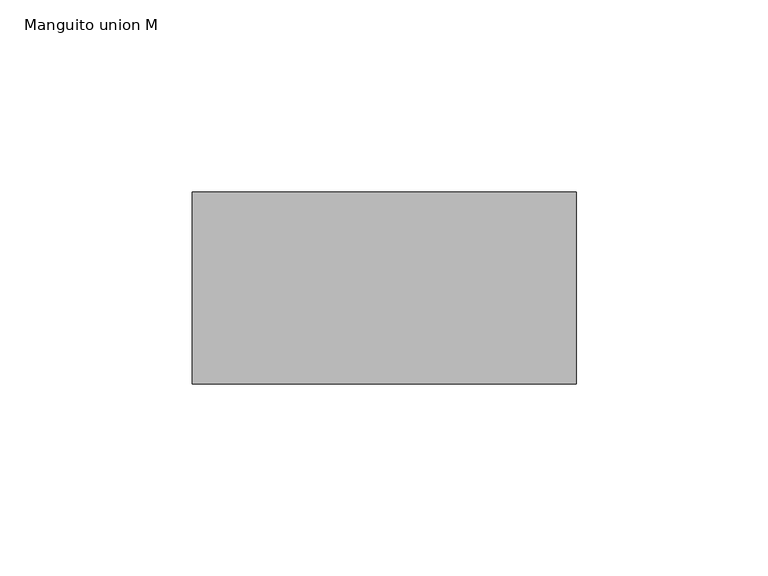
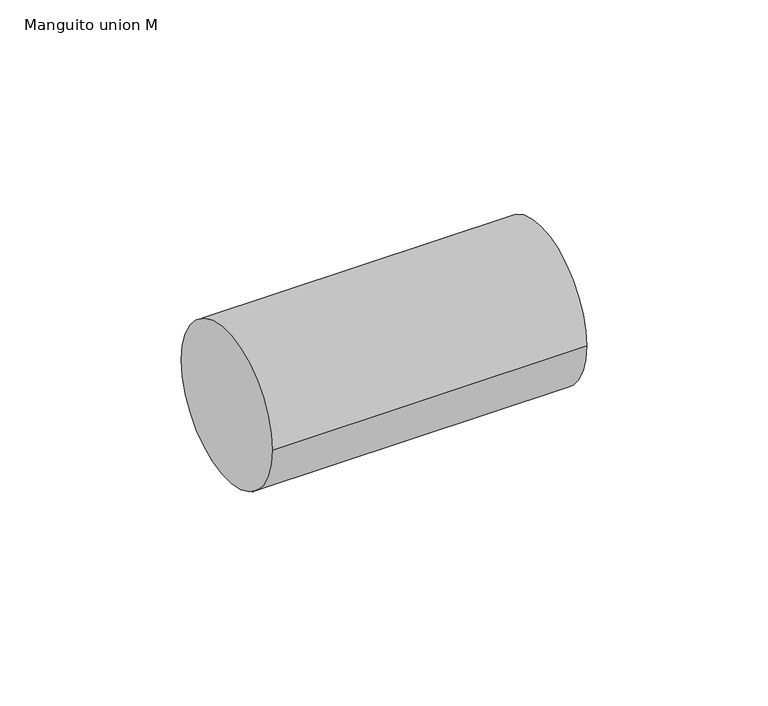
"""IFC4 building model written with IfcOpenShell, lengths in millimetres: pipe fitting geometry, 01051061 : Manguito union M."""

from ifc_helpers import new_model, si_unit, point, frame, origin, origin_2d, place, context, project, spatial, circle_curve, trimmed, segment, composite_curve, outline, extrude, source, transform, mapped, element, save


def manguito_union_m_bf7bb384(model_context):
    return source(origin(), model_context, "Body", "SweptSolid", [
        extrude(outline(composite_curve([segment(trimmed(circle_curve(origin_2d(), 25.0), [point((-25.0, 0.0))], [point((25.0, 0.0))], False, "CARTESIAN"), True, "CONTINUOUS"), segment(trimmed(circle_curve(origin_2d(), 25.0), [point((25.0, 0.0))], [point((-25.0, 0.0))], False, "CARTESIAN"), True, "CONTINUOUS")], self_intersect=False)), frame((-50.0, 0.0, 0.0), z_axis=(1.0, 0.0, 0.0), x_axis=(0.0, 1.0, 0.0)), (0.0, 0.0, 1.0), 100.0),
    ])


if __name__ == "__main__":
    model = new_model("IFC4")
    model_context = context("Model", 3, world=origin())
    ifc_project = project(units=[si_unit("LENGTHUNIT", "METRE", prefix="MILLI")], contexts=[model_context])
    site = spatial("IfcSite", under=ifc_project)
    building = spatial("IfcBuilding", under=site)
    placement = place(None, origin())
    manguito_union_m_shape = manguito_union_m_bf7bb384(model_context)
    element("IfcPipeFitting", 1, ObjectType="01051061 : Manguito union M", at=placement, inside=building, context=model_context, shape_type="MappedRepresentation", body=[
        mapped(manguito_union_m_shape, transform((0.0, 0.0, 0.0), x_axis=(1.0, 0.0, 0.0), y_axis=(0.0, 1.0, 0.0), z_axis=(0.0, 0.0, 1.0))),
    ])
    save(model, "model.ifc")
